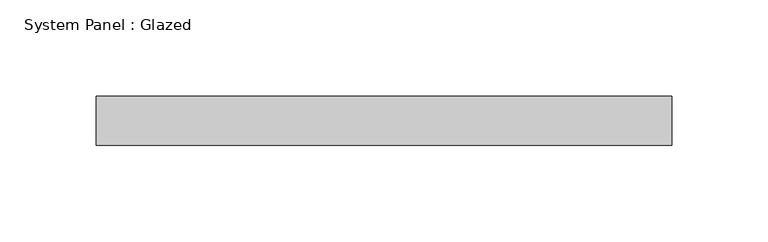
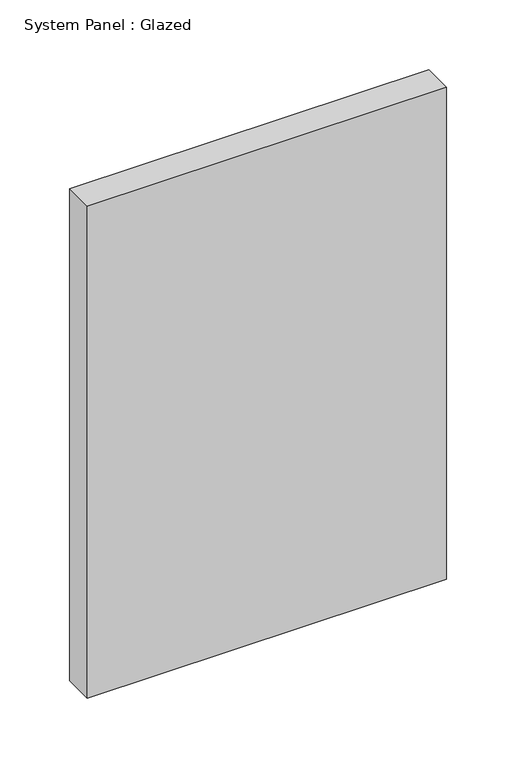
"""IFC4 building model written with IfcOpenShell, lengths in millimetres: plate geometry, System Panel : Glazed."""

import ifcopenshell
import ifcopenshell.guid

model = None  # the IFC model being written
_history = None  # IfcOwnerHistory: only IFC2X3 demands one
_inside = {}  # id of a spatial element -> (the spatial element, [elements in it])
_under = {}  # id of a project, library or spatial element -> (it, [spatial elements below it])
_declared = {}  # id of a project -> (the project, [libraries it declares])
_typed = {}  # id of a type object -> (the type object, [elements of that type])
_made_of = {}  # id of a material, layer set ... -> (it, [elements and type objects made of it])


def new_model(schema):
    """Start an empty IFC model of exactly this schema.

    Asked for "IFC4X3", IfcOpenShell would pick the latest addendum, in which some entities
    have other attributes; the version numbers below select the first issue.
    IFC2X3 requires an IfcOwnerHistory on every rooted entity: one is made here for all.
    """
    global model, _history
    if schema == "IFC4X3":
        model = ifcopenshell.file(schema_version=(4, 3, 0, 0))
    else:
        model = ifcopenshell.file(schema=schema)
    _inside.clear()
    _under.clear()
    _declared.clear()
    _typed.clear()
    _made_of.clear()
    _history = None
    if model.schema == "IFC2X3":
        org = make("IfcOrganization", Name="unknown")
        user = make(
            "IfcPersonAndOrganization",
            ThePerson=make("IfcPerson", FamilyName="unknown"),
            TheOrganization=org,
        )
        app = make(
            "IfcApplication",
            ApplicationDeveloper=org,
            Version="unknown",
            ApplicationFullName="unknown",
            ApplicationIdentifier="unknown",
        )
        _history = make(
            "IfcOwnerHistory",
            OwningUser=user,
            OwningApplication=app,
            ChangeAction="ADDED",
            CreationDate=0,
        )
    return model


def make(cls, **values):
    """One entity of the class cls with the attributes given. An attribute that is None is left unset."""
    return model.create_entity(
        cls, **{name: value for name, value in values.items() if value is not None}
    )


def rooted(cls, **values):
    """An entity with a GlobalId (a new one), such as an element, a storey or a relation."""
    return make(cls, GlobalId=ifcopenshell.guid.new(), OwnerHistory=_history, **values)


def si_unit(unit_type, name, prefix=None):
    """IfcSIUnit, for example si_unit("LENGTHUNIT", "METRE", prefix="MILLI")."""
    return make("IfcSIUnit", UnitType=unit_type, Prefix=prefix, Name=name)


def assignment(units):
    """IfcUnitAssignment: the units of a project."""
    return None if units is None else make("IfcUnitAssignment", Units=units)


def point(xyz):
    """IfcCartesianPoint."""
    return None if xyz is None else make("IfcCartesianPoint", Coordinates=xyz)


def direction(xyz):
    """IfcDirection."""
    return None if xyz is None else make("IfcDirection", DirectionRatios=xyz)


def frame(location, z_axis=None, x_axis=None):
    """IfcAxis2Placement3D, a coordinate frame: its origin and axes. An axis left out is left unset."""
    return make(
        "IfcAxis2Placement3D",
        Location=point(location),
        Axis=direction(z_axis),
        RefDirection=direction(x_axis),
    )


def origin():
    """The frame at (0, 0, 0) with its axes left unset."""
    return frame((0.0, 0.0, 0.0))


def origin_with_axes():
    """The frame at (0, 0, 0) with the z axis (0, 0, 1) and the x axis (1, 0, 0) written out."""
    return frame((0.0, 0.0, 0.0), z_axis=(0.0, 0.0, 1.0), x_axis=(1.0, 0.0, 0.0))


def place(relative_to, where):
    """IfcLocalPlacement: puts the frame where relative to a parent placement (None: the world)."""
    return make(
        "IfcLocalPlacement", PlacementRelTo=relative_to, RelativePlacement=where
    )


def context(
    kind, dimensions, precision=None, world=None, true_north=None, identifier=None
):
    """IfcGeometricRepresentationContext, for example the 3D "Model" context."""
    return make(
        "IfcGeometricRepresentationContext",
        ContextIdentifier=identifier,
        ContextType=kind,
        CoordinateSpaceDimension=dimensions,
        Precision=precision,
        WorldCoordinateSystem=world,
        TrueNorth=true_north,
    )


def project(units=None, contexts=None):
    """IfcProject with its units and contexts."""
    return rooted(
        "IfcProject",
        Name="project",
        RepresentationContexts=contexts,
        UnitsInContext=assignment(units),
    )


def spatial(cls, under=None, at=None, **own):
    """A site, building, storey or space (cls), placed at a placement, below another one or the project."""
    s = rooted(cls, ObjectPlacement=at, **own)
    if under is not None:
        _under.setdefault(under.id(), (under, []))[1].append(s)
    return s


def polyline(points):
    """IfcPolyline through the points."""
    return make("IfcPolyline", Points=[point(p) for p in points])


def outline(outer, holes=None, kind="AREA"):
    """IfcArbitraryClosedProfileDef: a profile drawn as a closed curve; with holes, ...WithVoids."""
    if holes is None:
        return make("IfcArbitraryClosedProfileDef", ProfileType=kind, OuterCurve=outer)
    return make(
        "IfcArbitraryProfileDefWithVoids",
        ProfileType=kind,
        OuterCurve=outer,
        InnerCurves=holes,
    )


def extrude(swept, where, along, depth):
    """IfcExtrudedAreaSolid: the profile swept, set in the frame where, extruded along a direction by depth."""
    return make(
        "IfcExtrudedAreaSolid",
        SweptArea=swept,
        Position=where,
        ExtrudedDirection=direction(along),
        Depth=depth,
    )


def shape(context_of_items, identifier, shape_type, items):
    """IfcShapeRepresentation: the items that make up one representation, for example the "Body"."""
    return make(
        "IfcShapeRepresentation",
        ContextOfItems=context_of_items,
        RepresentationIdentifier=identifier,
        RepresentationType=shape_type,
        Items=items,
    )


def source(mapping_origin, context_of_items, identifier, shape_type, items):
    """IfcRepresentationMap: a shape defined once, which mapped items show again and again."""
    return make(
        "IfcRepresentationMap",
        MappingOrigin=mapping_origin,
        MappedRepresentation=shape(context_of_items, identifier, shape_type, items),
    )


def transform(
    local_origin,
    x_axis=None,
    y_axis=None,
    z_axis=None,
    scale=None,
    scale2=None,
    scale3=None,
    uniform=True,
):
    """IfcCartesianTransformationOperator3D, or its non-uniform kind. x_axis, y_axis, z_axis: its Axis1, 2, 3."""
    if uniform:
        return make(
            "IfcCartesianTransformationOperator3D",
            Axis1=direction(x_axis),
            Axis2=direction(y_axis),
            LocalOrigin=point(local_origin),
            Scale=scale,
            Axis3=direction(z_axis),
        )
    return make(
        "IfcCartesianTransformationOperator3DnonUniform",
        Axis1=direction(x_axis),
        Axis2=direction(y_axis),
        LocalOrigin=point(local_origin),
        Scale=scale,
        Axis3=direction(z_axis),
        Scale2=scale2,
        Scale3=scale3,
    )


def mapped(mapping_source, mapping_target):
    """IfcMappedItem: shows the shape of a source again, moved by a transform."""
    return make(
        "IfcMappedItem", MappingSource=mapping_source, MappingTarget=mapping_target
    )


def made_of(thing, what):
    """Note that an element or type object is made of a material, layer set ...; save() writes the relation."""
    if what is not None:
        _made_of.setdefault(what.id(), (what, []))[1].append(thing)
    return thing


def element(
    cls,
    number,
    at=None,
    inside=None,
    cuts=None,
    type_object=None,
    material=None,
    context=None,
    identifier="Body",
    shape_type=None,
    held_by="IfcProductDefinitionShape",
    body=None,
    shapes=None,
    **own,
):
    """One element of the class cls, such as IfcWall. Its Tag is "e" and its number.

    at: its placement. inside: the storey or other place that contains it. cuts: it is an
    opening in that element (IfcRelVoidsElement). A single representation is given by context,
    identifier, shape_type and body (its items); several are given by shapes. held_by: the class
    of the entity that holds the representations. save() writes the other relations.
    """
    e = rooted(cls, Tag="e%d" % number, ObjectPlacement=at, **own)
    if body is not None:
        shapes = [shape(context, identifier, shape_type, body)]
    if shapes is not None:
        e.Representation = make(held_by, Representations=shapes)
    if inside is not None:
        _inside.setdefault(inside.id(), (inside, []))[1].append(e)
    if cuts is not None:
        rooted(
            "IfcRelVoidsElement", RelatingBuildingElement=cuts, RelatedOpeningElement=e
        )
    if type_object is not None:
        _typed.setdefault(type_object.id(), (type_object, []))[1].append(e)
    return made_of(e, material)


def aggregate(whole, parts):
    """IfcRelAggregates: a whole, such as a stair, and the parts it consists of."""
    return rooted("IfcRelAggregates", RelatingObject=whole, RelatedObjects=parts)


def save(model, path):
    """Write the relations noted so far, then the file.

    IfcRelAggregates (storeys below a building ...), IfcRelContainedInSpatialStructure (elements
    in a storey), IfcRelDefinesByType, IfcRelAssociatesMaterial and IfcRelDeclares: one each for
    every whole, place, type object, material and project.
    """
    for whole, parts in _under.values():
        aggregate(whole, parts)
    for where, things in _inside.values():
        rooted(
            "IfcRelContainedInSpatialStructure",
            RelatedElements=things,
            RelatingStructure=where,
        )
    for kind, things in _typed.values():
        rooted("IfcRelDefinesByType", RelatedObjects=things, RelatingType=kind)
    for what, things in _made_of.values():
        rooted("IfcRelAssociatesMaterial", RelatedObjects=things, RelatingMaterial=what)
    for by, libraries in _declared.values():
        rooted("IfcRelDeclares", RelatingContext=by, RelatedDefinitions=libraries)
    model.write(path)


def system_panel_glazed_e3287ea6(model_context):
    return source(origin(), model_context, "Body", "SweptSolid", [
        extrude(outline(polyline([(149.2249998, 19.05), (-149.2249998, 19.05), (-149.2249998, 44.45), (149.2249998, 44.45), (149.2249998, 19.05)])), origin_with_axes(), (0.0, 0.0, 1.0), 431.8),
    ])


if __name__ == "__main__":
    model = new_model("IFC4")
    model_context = context("Model", 3, world=origin())
    ifc_project = project(units=[si_unit("LENGTHUNIT", "METRE", prefix="MILLI")], contexts=[model_context])
    site = spatial("IfcSite", under=ifc_project)
    building = spatial("IfcBuilding", under=site)
    placement = place(None, origin())
    system_panel_glazed_shape = system_panel_glazed_e3287ea6(model_context)
    element("IfcPlate", 1, ObjectType="System Panel : Glazed", at=placement, inside=building, context=model_context, shape_type="MappedRepresentation", body=[
        mapped(system_panel_glazed_shape, transform((0.0, 0.0, 0.0), x_axis=(1.0, 0.0, 0.0), y_axis=(0.0, 1.0, 0.0), z_axis=(0.0, 0.0, 1.0))),
    ])
    save(model, "model.ifc")
